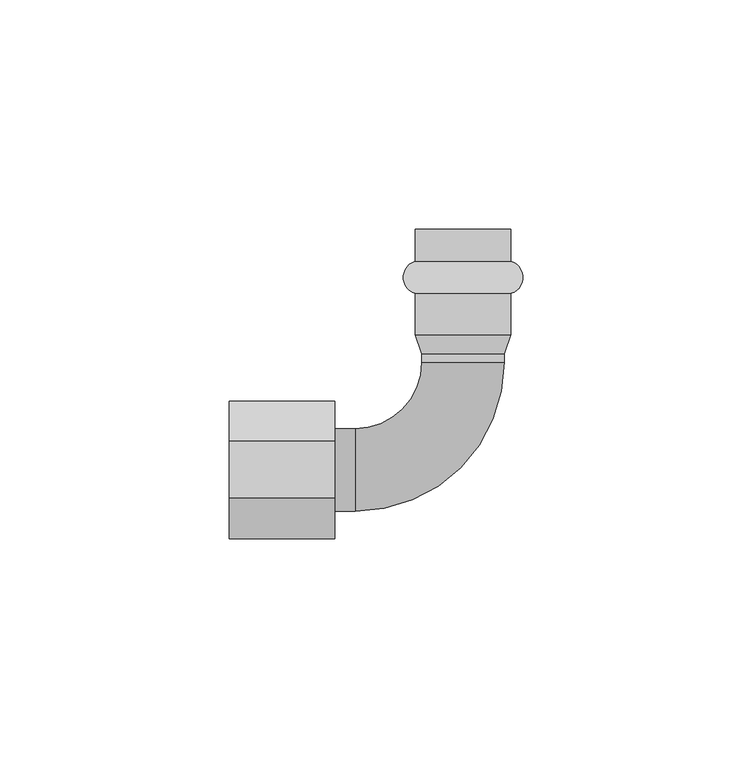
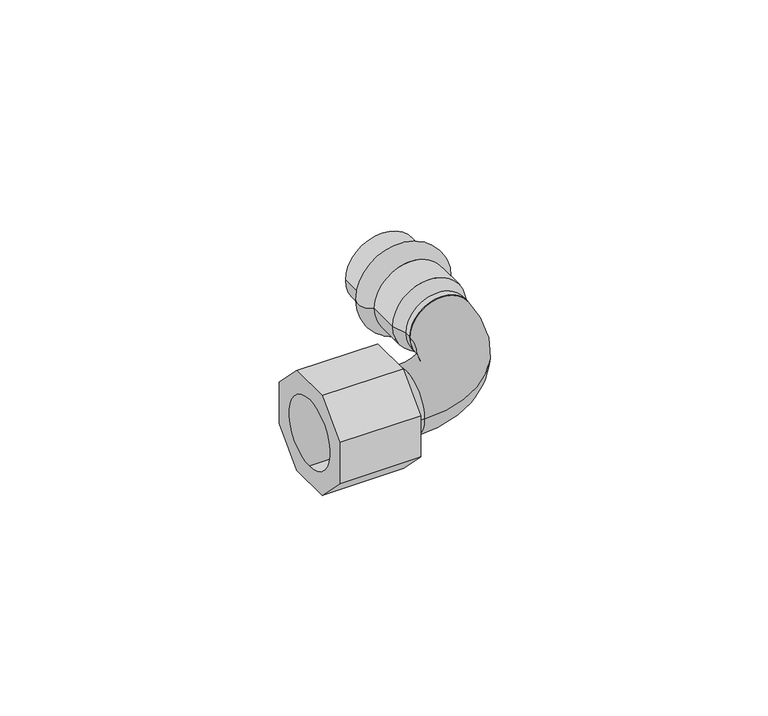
"""IFC4 building model written with IfcOpenShell, lengths in millimetres: valve geometry, Отвод_90°_с_переходом_на_внутреннюю_резьбу : Отвод_90°_с_переходом_на_внутреннюю_резьбу."""

from ifc_helpers import new_model, si_unit, point, frame, origin, origin_2d, place, context, project, spatial, polyline, circle_curve, ellipse_curve, trimmed, segment, composite_curve, outline, extrude, source, transform, mapped, element, save
from ifc_brep_helpers import plane_surface, cylinder_surface, revolved_surface, advanced_brep


def valve_46008ec3(model_context):
    return source(origin(), model_context, "Body", "SolidModel", [
        extrude(outline(polyline([(6.2132034, -15.0), (-6.2132034, -15.0), (-15.0, -6.2132034), (-15.0, 6.2132034), (-6.2132034, 15.0), (6.2132034, 15.0), (15.0, 6.2132034), (15.0, -6.2132034), (6.2132034, -15.0)]), holes=[composite_curve([segment(trimmed(circle_curve(origin_2d(), 10.0), [point((0.0, 10.0))], [point((0.0, -10.0))], True, "CARTESIAN"), True, "CONTINUOUS"), segment(trimmed(circle_curve(origin_2d(), 10.0), [point((0.0, -10.0))], [point((0.0, 10.0))], True, "CARTESIAN"), True, "CONTINUOUS")], self_intersect=False)]), frame((-51.0, 0.0, 0.0), z_axis=(1.0, 0.0, 0.0), x_axis=(0.0, 1.0, 0.0)), (0.0, 0.0, 1.0), 23.0),
        advanced_brep(
        [(10.45, 45.51, 0.0), (-10.45, 45.51, 0.0), (-10.45, 52.5, 0.0), (10.45, 52.5, 0.0), (10.45, 38.49, 0.0), (-10.45, 38.49, 0.0), (10.45, 29.5, 0.0), (-10.45, 29.5, 0.0), (9.0, 25.38, 0.0), (-9.0, 25.38, 0.0), (9.0, 23.5, 0.0), (-9.0, 23.5, 0.0), (0.0, 23.5, 0.0), (0.0, 52.5, 0.0)],
        [
            (0, 1, circle_curve(frame((0.0, 45.51, 0.0), z_axis=(0.0, 1.0, 0.0), x_axis=(-1.0, 0.0, 0.0)), 10.45)),
            (1, 2),
            (2, 3, circle_curve(frame((0.0, 52.5, 0.0), z_axis=(0.0, -1.0, 0.0), x_axis=(-1.0, 0.0, 0.0)), 10.45)),
            (3, 0),
            (1, 0, circle_curve(frame((0.0, 45.51, 0.0), z_axis=(0.0, 1.0, 0.0), x_axis=(-1.0, 0.0, 0.0)), 10.45)),
            (3, 2, circle_curve(frame((0.0, 52.5, 0.0), z_axis=(0.0, -1.0, 0.0), x_axis=(-1.0, 0.0, 0.0)), 10.45)),
            (4, 5, circle_curve(frame((0.0, 38.49, 0.0), z_axis=(0.0, 1.0, 0.0), x_axis=(-1.0, 0.0, 0.0)), 10.45)),
            (5, 1, circle_curve(frame((-9.3504491, 42.0, 0.0), z_axis=(0.0, 0.0, -1.0), x_axis=(0.0, 1.0, 0.0)), 3.6781941)),
            (0, 4, circle_curve(frame((9.3504491, 42.0, 0.0), z_axis=(0.0, 0.0, -1.0), x_axis=(0.0, 1.0, 0.0)), 3.6781941)),
            (5, 4, circle_curve(frame((0.0, 38.49, 0.0), z_axis=(0.0, 1.0, 0.0), x_axis=(-1.0, 0.0, 0.0)), 10.45)),
            (6, 7, circle_curve(frame((0.0, 29.5, 0.0), z_axis=(0.0, 1.0, 0.0), x_axis=(-1.0, 0.0, 0.0)), 10.45)),
            (7, 5),
            (4, 6),
            (7, 6, circle_curve(frame((0.0, 29.5, 0.0), z_axis=(0.0, 1.0, 0.0), x_axis=(-1.0, 0.0, 0.0)), 10.45)),
            (8, 9, circle_curve(frame((0.0, 25.38, 0.0), z_axis=(0.0, 1.0, 0.0), x_axis=(-1.0, 0.0, 0.0)), 9.0)),
            (9, 7),
            (6, 8),
            (9, 8, circle_curve(frame((0.0, 25.38, 0.0), z_axis=(0.0, 1.0, 0.0), x_axis=(-1.0, 0.0, 0.0)), 9.0)),
            (10, 11, circle_curve(frame((0.0, 23.5, 0.0), z_axis=(0.0, 1.0, 0.0), x_axis=(-1.0, 0.0, 0.0)), 9.0)),
            (11, 9),
            (8, 10),
            (11, 10, circle_curve(frame((0.0, 23.5, 0.0), z_axis=(0.0, 1.0, 0.0), x_axis=(-1.0, 0.0, 0.0)), 9.0)),
            (12, 11),
            (10, 12),
            (2, 13),
            (13, 3),
        ],
        [
            cylinder_surface(frame((0.0, 2052.5, 0.0), z_axis=(0.0, -1.0, 0.0), x_axis=(-1.0, 0.0, 0.0)), 10.45),
            revolved_surface(trimmed(ellipse_curve(frame((-9.3504491, 42.0, 0.0), z_axis=(0.0, 0.0, 1.0), x_axis=(0.0, 1.0, 0.0)), 3.6781941, 3.6781941), [point((-10.45, 45.51, 0.0))], [point((-10.45, 38.49, 0.0))], True, "CARTESIAN"), (0.0, 2052.5, 0.0), (0.0, -1.0, 0.0)),
            revolved_surface(polyline([(-10.45, 29.5, 0.0), (-9.0, 25.38, 0.0)]), (0.0, 2052.5, 0.0), (0.0, -1.0, 0.0)),
            cylinder_surface(frame((0.0, 2052.5, 0.0), z_axis=(0.0, -1.0, 0.0), x_axis=(-1.0, 0.0, 0.0)), 9.0),
            plane_surface(frame((0.0, 23.5, 0.0), z_axis=(0.0, -1.0, 0.0), x_axis=(-1.0, 0.0, 0.0))),
            plane_surface(frame((0.0, 52.5, 0.0), z_axis=(0.0, 1.0, 0.0), x_axis=(-1.0, 0.0, 0.0))),
        ],
        [
            (0, [[1, 2, 3, 4]]),
            (0, [[5, -4, 6, -2]]),
            (1, [[7, 8, -1, 9]]),
            (1, [[10, -9, -5, -8]]),
            (0, [[11, 12, -7, 13]]),
            (0, [[14, -13, -10, -12]]),
            (2, [[15, 16, -11, 17]]),
            (2, [[18, -17, -14, -16]]),
            (3, [[19, 20, -15, 21]]),
            (3, [[22, -21, -18, -20]]),
            (4, [[23, -19, 24]]),
            (4, [[-24, -22, -23]]),
            (5, [[-3, 25, 26]]),
            (5, [[-6, -26, -25]]),
        ],
    ),
        advanced_brep(
        [(-23.5, -9.0, 0.0), (-23.5, 9.0, 0.0), (-23.5, 0.0, 0.0), (-28.0, -9.0, 0.0), (-28.0, 9.0, 0.0), (-28.0, 0.0, 0.0)],
        [
            (0, 1, circle_curve(frame((-23.5, 0.0, 0.0), z_axis=(1.0, 0.0, 0.0), x_axis=(0.0, 1.0, 0.0)), 9.0)),
            (1, 2),
            (2, 0),
            (1, 0, circle_curve(frame((-23.5, 0.0, 0.0), z_axis=(1.0, 0.0, 0.0), x_axis=(0.0, 1.0, 0.0)), 9.0)),
            (3, 4, circle_curve(frame((-28.0, 0.0, 0.0), z_axis=(1.0, 0.0, 0.0), x_axis=(0.0, 1.0, 0.0)), 9.0)),
            (4, 1),
            (0, 3),
            (4, 3, circle_curve(frame((-28.0, 0.0, 0.0), z_axis=(1.0, 0.0, 0.0), x_axis=(0.0, 1.0, 0.0)), 9.0)),
            (5, 4),
            (3, 5),
        ],
        [
            plane_surface(frame((-23.5, 0.0, 0.0), z_axis=(1.0, 0.0, 0.0), x_axis=(0.0, 1.0, 0.0))),
            cylinder_surface(frame((2000.0, 0.0, 0.0), z_axis=(-1.0, 0.0, 0.0), x_axis=(0.0, 1.0, 0.0)), 9.0),
            plane_surface(frame((-28.0, 0.0, 0.0), z_axis=(-1.0, 0.0, 0.0), x_axis=(0.0, 1.0, 0.0))),
        ],
        [
            (0, [[1, 2, 3]]),
            (0, [[4, -3, -2]]),
            (1, [[5, 6, -1, 7]]),
            (1, [[8, -7, -4, -6]]),
            (2, [[9, -5, 10]]),
            (2, [[-10, -8, -9]]),
        ],
    ),
        advanced_brep(
        [(-9.0, 23.5, 0.0), (9.0, 23.5, 0.0), (-23.5, 9.0, 0.0), (-23.5, -9.0, 0.0)],
        [
            (0, 1, circle_curve(frame((0.0, 23.5, 0.0), z_axis=(0.0, 1.0, 0.0), x_axis=(1.0, 0.0, 0.0)), 9.0)),
            (1, 0, circle_curve(frame((0.0, 23.5, 0.0), z_axis=(0.0, 1.0, 0.0), x_axis=(1.0, 0.0, 0.0)), 9.0)),
            (2, 3, circle_curve(frame((-23.5, 0.0, 0.0), z_axis=(-1.0, 0.0, 0.0), x_axis=(0.0, -1.0, 0.0)), 9.0)),
            (3, 2, circle_curve(frame((-23.5, 0.0, 0.0), z_axis=(-1.0, 0.0, 0.0), x_axis=(0.0, -1.0, 0.0)), 9.0)),
            (3, 1, circle_curve(frame((-23.5, 23.5, 0.0), z_axis=(0.0, 0.0, 1.0), x_axis=(1.0, 0.0, 0.0)), 32.5)),
            (0, 2, circle_curve(frame((-23.5, 23.5, 0.0), z_axis=(0.0, 0.0, -1.0), x_axis=(1.0, 0.0, 0.0)), 14.5)),
        ],
        [
            plane_surface(frame((0.0, 23.5, 0.0), z_axis=(0.0, 1.0, 0.0), x_axis=(0.0, 0.0, 1.0))),
            plane_surface(frame((-23.5, 0.0, 0.0), z_axis=(-1.0, 0.0, 0.0), x_axis=(0.0, 0.0, 1.0))),
            revolved_surface(trimmed(ellipse_curve(frame((0.0, 23.5, 0.0), z_axis=(0.0, 1.0, 0.0), x_axis=(1.0, 0.0, 0.0)), 9.0, 9.0), [point((-9.0, 23.5, 0.0))], [point((9.0, 23.5, 0.0))], True, "CARTESIAN"), (-23.5, 23.5, 0.0), (0.0, 0.0, -1.0)),
            revolved_surface(trimmed(ellipse_curve(frame((0.0, 23.5, 0.0), z_axis=(0.0, 1.0, 0.0), x_axis=(1.0, 0.0, 0.0)), 9.0, 9.0), [point((9.0, 23.5, 0.0))], [point((-9.0, 23.5, 0.0))], True, "CARTESIAN"), (-23.5, 23.5, 0.0), (0.0, 0.0, -1.0)),
        ],
        [
            (0, [[1, 2]]),
            (1, [[3, 4]]),
            (2, [[5, -1, 6, -4]]),
            (3, [[-6, -2, -5, -3]]),
        ],
    ),
    ])


if __name__ == "__main__":
    model = new_model("IFC4")
    model_context = context("Model", 3, world=origin())
    ifc_project = project(units=[si_unit("LENGTHUNIT", "METRE", prefix="MILLI")], contexts=[model_context])
    site = spatial("IfcSite", under=ifc_project)
    building = spatial("IfcBuilding", under=site)
    placement = place(None, origin())
    valve_shape = valve_46008ec3(model_context)
    element("IfcValve", 1, ObjectType="Отвод_90°_с_переходом_на_внутреннюю_резьбу : Отвод_90°_с_переходом_на_внутреннюю_резьбу", at=placement, inside=building, context=model_context, shape_type="MappedRepresentation", body=[
        mapped(valve_shape, transform((0.0, 0.0, 0.0), x_axis=(1.0, 0.0, 0.0), y_axis=(0.0, 1.0, 0.0), z_axis=(0.0, 0.0, 1.0))),
    ])
    save(model, "model.ifc")
